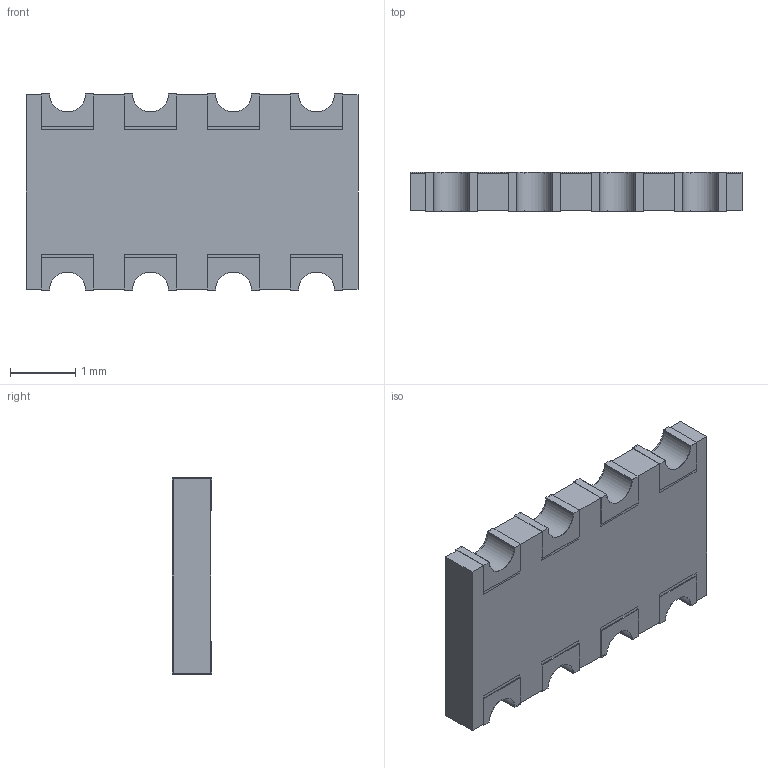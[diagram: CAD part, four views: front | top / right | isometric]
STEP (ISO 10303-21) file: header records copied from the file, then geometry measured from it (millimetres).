
FILE_DESCRIPTION(/* description */ (''),/* implementation_level */ '2;1');
FILE_NAME(/* name */ 'C:\Users\mulla\Documents\Work\SEI Models\Inventor Files\RACF\RACF324D_stp.stp',/* time_stamp */ '2019-08-07T16:43:55-04:00',/* author */ ('mulla'),/* organization */ (''),/* preprocessor_version */ 'ST-DEVELOPER v16.1',/* originating_system */ 'Autodesk Inventor 2016',/* authorisation */ '');
FILE_SCHEMA (('AUTOMOTIVE_DESIGN { 1 0 10303 214 3 1 1 }'));
Length unit declared in the file: millimetre
Products named in the file (1): RACF324D
Bounding box: 5.08 x 0.6 x 3 mm (x, y, z)
Surface area: 78 mm2
Topology: 10 solids, 10 shells, 108 faces, 264 edges, 176 vertices
Faces by surface type: plane 92, cylinder 16
Entity records: 3268 total; most frequent: CARTESIAN_POINT 549, ORIENTED_EDGE 528, DIRECTION 514, EDGE_CURVE 264, LINE 232, VECTOR 232, VERTEX_POINT 176, AXIS2_PLACEMENT_3D 141
